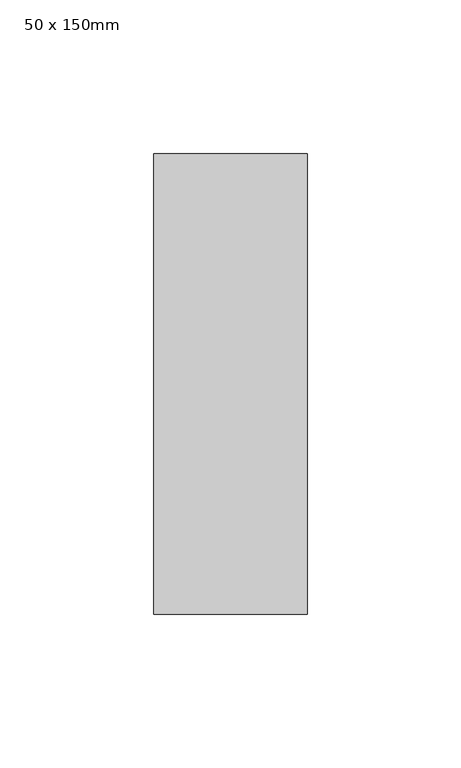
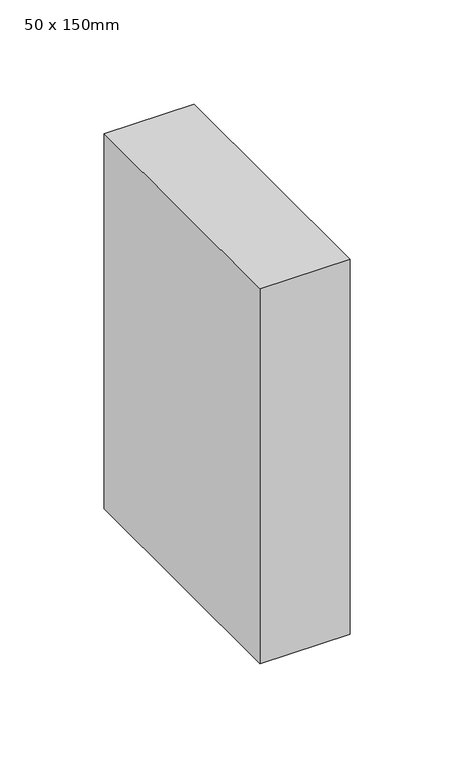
"""IFC4 building model written with IfcOpenShell, lengths in millimetres: member geometry, Прямоугольный импост : 50 x 150mm."""

from ifc_helpers import new_model, si_unit, frame, origin, place, context, project, spatial, polyline, outline, extrude, source, transform, mapped, element, save


def member_50_x_150mm_e4fb449b(model_context):
    return source(origin(), model_context, "Body", "SweptSolid", [
        extrude(outline(polyline([(0.0, 75.0), (0.0, -75.0), (-50.0, -75.0), (-50.0, 75.0), (0.0, 75.0)])), frame((0.0, 0.0, -220.0), z_axis=(0.0, 0.0, 1.0), x_axis=(1.0, 0.0, 0.0)), (0.0, 0.0, 1.0), 220.0),
    ])


if __name__ == "__main__":
    model = new_model("IFC4")
    model_context = context("Model", 3, world=origin())
    ifc_project = project(units=[si_unit("LENGTHUNIT", "METRE", prefix="MILLI")], contexts=[model_context])
    site = spatial("IfcSite", under=ifc_project)
    building = spatial("IfcBuilding", under=site)
    placement = place(None, origin())
    member_50_x_150mm_shape = member_50_x_150mm_e4fb449b(model_context)
    element("IfcMember", 1, ObjectType="Прямоугольный импост : 50 x 150mm", at=placement, inside=building, context=model_context, shape_type="MappedRepresentation", body=[
        mapped(member_50_x_150mm_shape, transform((0.0, 0.0, 0.0), x_axis=(1.0, 0.0, 0.0), y_axis=(0.0, 1.0, 0.0), z_axis=(0.0, 0.0, 1.0))),
    ])
    save(model, "model.ifc")
